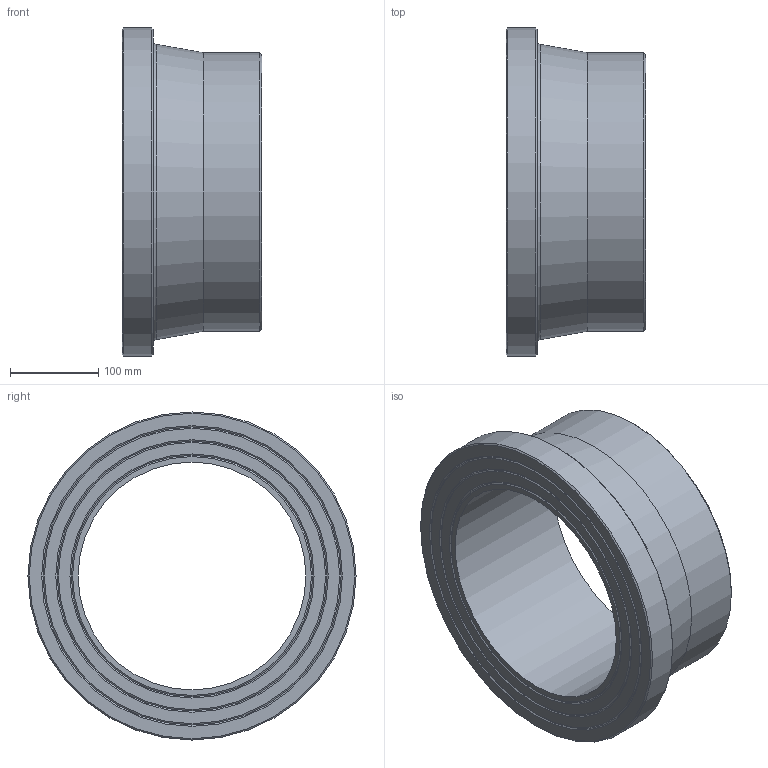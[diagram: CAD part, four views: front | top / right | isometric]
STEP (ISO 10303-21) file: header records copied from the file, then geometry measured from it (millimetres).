
FILE_DESCRIPTION(/* description */ ('Unknown'),/* implementation_level */ '2;1');
FILE_NAME(/* name */ 'CCP315C',/* time_stamp */ '2022-04-04T15:14:22+02:00',/* author */ ('Unknown'),/* organization */ ('Unknown'),/* preprocessor_version */ 'ST-DEVELOPER v18.1',/* originating_system */ 'Solid Edge',/* authorisation */ 'Unknown');
FILE_SCHEMA (('AUTOMOTIVE_DESIGN {1 0 10303 214 3 1 1}'));
Length unit declared in the file: millimetre
Products named in the file (1): CCP315C
Bounding box: 158 x 371 x 371 mm (x, y, z)
Volume: 5401773.3 mm3; surface area: 392133 mm2
Topology: 1 solids, 1 shells, 20 faces, 35 edges, 21 vertices
Faces by surface type: cone 10, plane 6, cylinder 3, torus 1
Full cylindrical faces by diameter (mm): 257.8 x1, 315 x1, 371 x1
Entity records: 438 total; most frequent: DIRECTION 82, CARTESIAN_POINT 61, AXIS2_PLACEMENT_3D 41, ORIENTED_EDGE 40, EDGE_LOOP 40, FACE_BOUND 40, EDGE_CURVE 20, VERTEX_POINT 20
